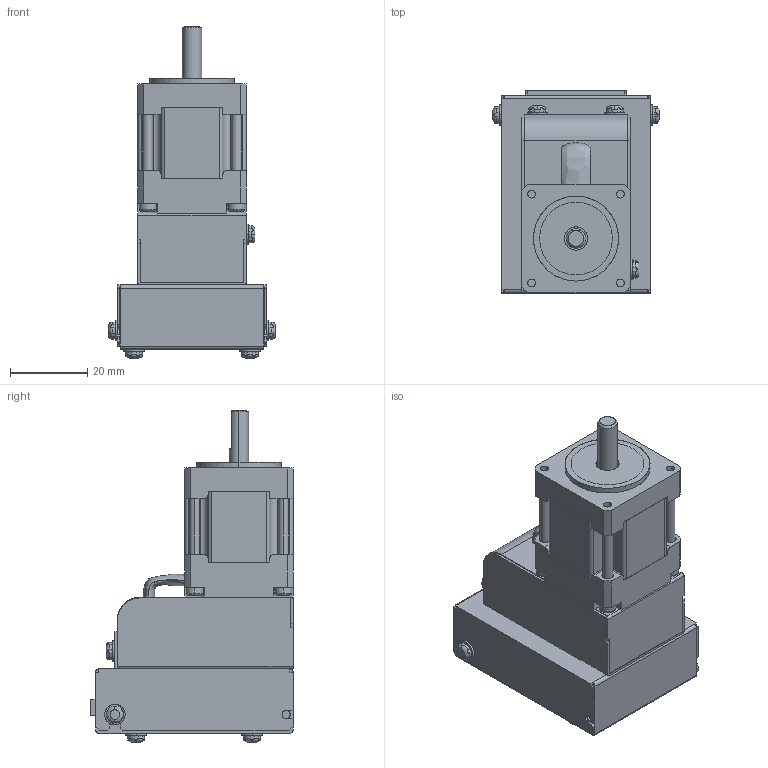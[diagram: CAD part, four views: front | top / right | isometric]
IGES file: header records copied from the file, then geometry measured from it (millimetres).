
Start section: SolidWorks IGES file using analytic representation for surfaces
Global section: file name: C:\Users\render\Desktop\CM Series CAD\CM1-11S\CM1-X-11S30.IGS; native system: SolidWorks 2009; preprocessor: SolidWorks 2009; author: render; date: 090730.092329; units: millimetre
Bounding box: 43.2 x 52.3 x 85.9 mm (x, y, z)
Surface area: 32597.7 mm2 (no closed solid volume)
Topology: 0 solids, 0 shells, 1057 faces, 10287 edges, 10287 vertices
Faces by surface type: bspline 809, revolution 248
